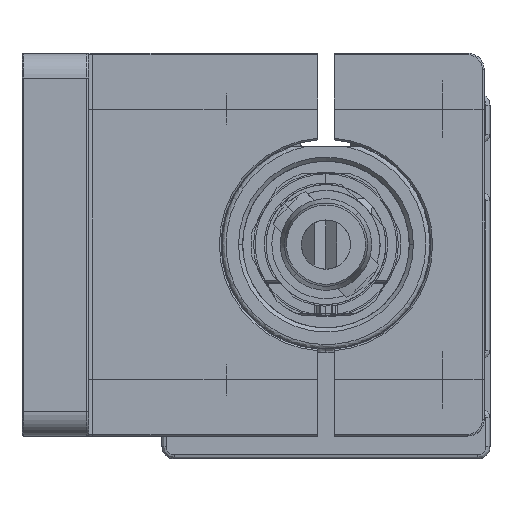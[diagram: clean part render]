
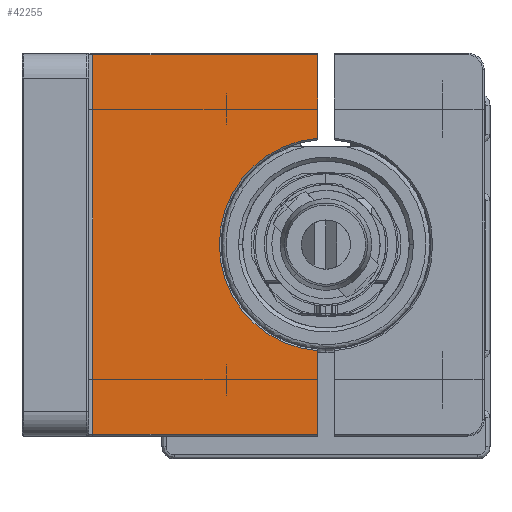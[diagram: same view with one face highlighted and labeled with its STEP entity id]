
A CAD part, front view. The second image highlights one B-rep face of the part: STEP entity #42255.
In plain terms, the highlighted planar face has unit normal (0, -1, 0) as drawn and (0, 0, 1) by its records, which use the part's own axes.
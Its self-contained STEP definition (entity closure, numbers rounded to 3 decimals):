
#65 = ORIENTED_EDGE ( 'NONE', *, *, #44782, .T. ) ;
#896 = DIRECTION ( 'NONE',  ( 0., -1., 0. ) ) ;
#2112 = DIRECTION ( 'NONE',  ( 1., 0., 0. ) ) ;
#2977 = CARTESIAN_POINT ( 'NONE',  ( 0.2, 7., 8. ) ) ;
#3731 = FACE_OUTER_BOUND ( 'NONE', #45920, .T. ) ;
#6568 = CARTESIAN_POINT ( 'NONE',  ( 45.8, 34., 8. ) ) ;
#7892 = CARTESIAN_POINT ( 'NONE',  ( 0., 7., 8. ) ) ;
#9562 = CARTESIAN_POINT ( 'NONE',  ( 35.761, 34., 8. ) ) ;
#12955 = AXIS2_PLACEMENT_3D ( 'NONE', #17843, #38138, #2112 ) ;
#13562 = CARTESIAN_POINT ( 'NONE',  ( 45.8, 7., 8. ) ) ;
#14225 = ORIENTED_EDGE ( 'NONE', *, *, #47082, .F. ) ;
#15579 = EDGE_CURVE ( 'NONE', #50899, #45780, #47911, .T. ) ;
#16320 = LINE ( 'NONE', #48451, #48046 ) ;
#17733 = EDGE_CURVE ( 'NONE', #45780, #23551, #16320, .T. ) ;
#17843 = CARTESIAN_POINT ( 'NONE',  ( 23., 35., 8. ) ) ;
#20868 = ORIENTED_EDGE ( 'NONE', *, *, #36994, .T. ) ;
#23551 = VERTEX_POINT ( 'NONE', #25360 ) ;
#23991 = DIRECTION ( 'NONE',  ( 1., 0., 0. ) ) ;
#24149 = EDGE_CURVE ( 'NONE', #48240, #23551, #46165, .T. ) ;
#25360 = CARTESIAN_POINT ( 'NONE',  ( 45.8, 34., 8. ) ) ;
#25669 = VECTOR ( 'NONE', #23991, 1000. ) ;
#26064 = LINE ( 'NONE', #6568, #30093 ) ;
#26819 = ORIENTED_EDGE ( 'NONE', *, *, #15579, .T. ) ;
#28496 = LINE ( 'NONE', #36894, #36782 ) ;
#30093 = VECTOR ( 'NONE', #42117, 1000. ) ;
#32296 = CIRCLE ( 'NONE', #12955, 12.8 ) ;
#33125 = VECTOR ( 'NONE', #46418, 1000. ) ;
#34041 = CARTESIAN_POINT ( 'NONE',  ( 45.8, 34., 8. ) ) ;
#34893 = VERTEX_POINT ( 'NONE', #37583 ) ;
#35283 = DIRECTION ( 'NONE',  ( 1., 0., 0. ) ) ;
#35476 = AXIS2_PLACEMENT_3D ( 'NONE', #39754, #42940, #35283 ) ;
#36782 = VECTOR ( 'NONE', #896, 1000. ) ;
#36894 = CARTESIAN_POINT ( 'NONE',  ( 0.2, 7., 8. ) ) ;
#36994 = EDGE_CURVE ( 'NONE', #43813, #50899, #28496, .T. ) ;
#37583 = CARTESIAN_POINT ( 'NONE',  ( 10.239, 34., 8. ) ) ;
#37860 = ORIENTED_EDGE ( 'NONE', *, *, #17733, .T. ) ;
#38138 = DIRECTION ( 'NONE',  ( 0., 0., -1. ) ) ;
#39082 = ORIENTED_EDGE ( 'NONE', *, *, #24149, .F. ) ;
#39754 = CARTESIAN_POINT ( 'NONE',  ( 0., 0., 8. ) ) ;
#42117 = DIRECTION ( 'NONE',  ( 1., 0., 0. ) ) ;
#42255 = ADVANCED_FACE ( 'NONE', ( #3731 ), #51095, .T. ) ;
#42940 = DIRECTION ( 'NONE',  ( 0., 0., 1. ) ) ;
#43813 = VERTEX_POINT ( 'NONE', #50320 ) ;
#44530 = DIRECTION ( 'NONE',  ( 0., 1., 0. ) ) ;
#44782 = EDGE_CURVE ( 'NONE', #48240, #34893, #32296, .T. ) ;
#45780 = VERTEX_POINT ( 'NONE', #13562 ) ;
#45920 = EDGE_LOOP ( 'NONE', ( #14225, #20868, #26819, #37860, #39082, #65 ) ) ;
#46165 = LINE ( 'NONE', #34041, #33125 ) ;
#46418 = DIRECTION ( 'NONE',  ( 1., 0., 0. ) ) ;
#47082 = EDGE_CURVE ( 'NONE', #43813, #34893, #26064, .T. ) ;
#47911 = LINE ( 'NONE', #7892, #25669 ) ;
#48046 = VECTOR ( 'NONE', #44530, 1000. ) ;
#48240 = VERTEX_POINT ( 'NONE', #9562 ) ;
#48451 = CARTESIAN_POINT ( 'NONE',  ( 45.8, 34., 8. ) ) ;
#50320 = CARTESIAN_POINT ( 'NONE',  ( 0.2, 34., 8. ) ) ;
#50899 = VERTEX_POINT ( 'NONE', #2977 ) ;
#51095 = PLANE ( 'NONE',  #35476 ) ;
